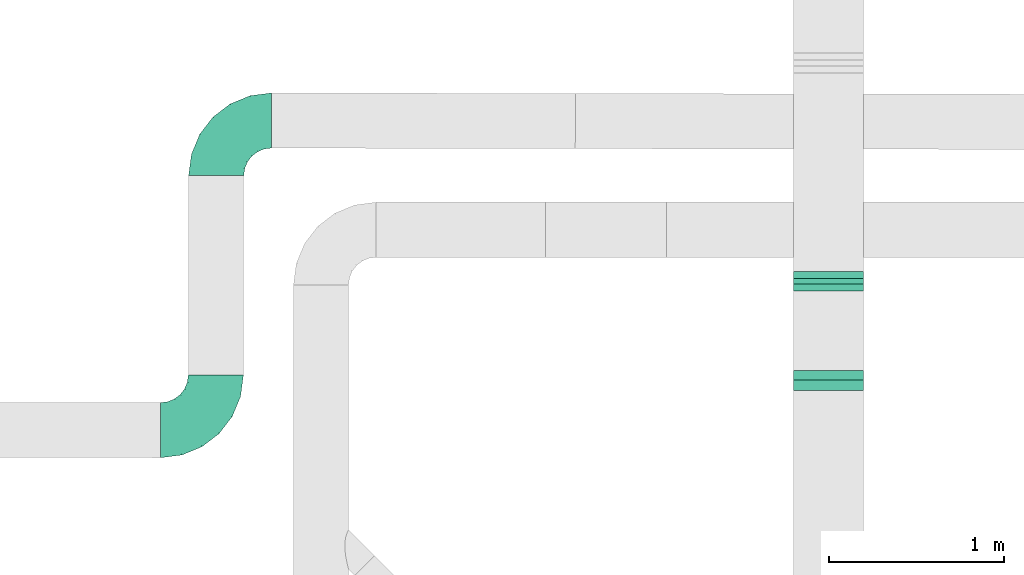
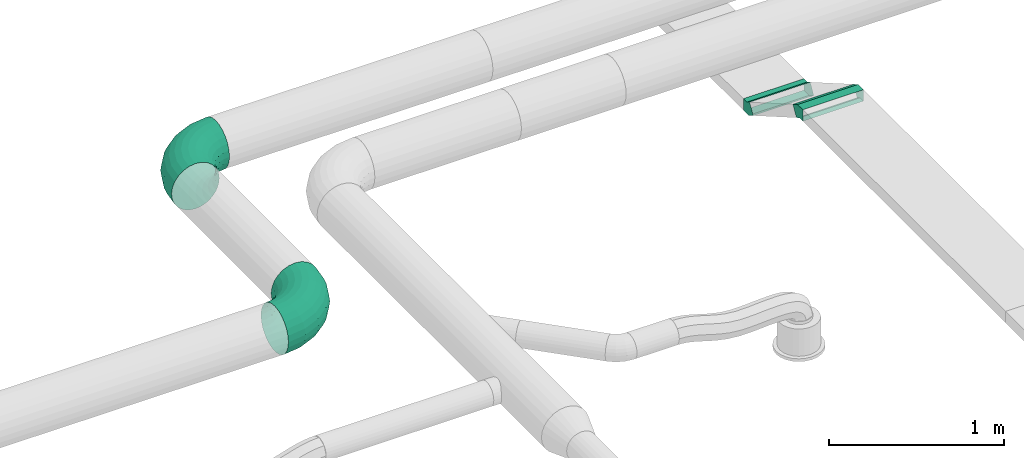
# One storey, part 12 of 119: 2 distribution elements, 2 flow fittings.
"""IFC2X3 building model written with IfcOpenShell, lengths in metres."""

from ifc_helpers import new_model, si_unit, direction, frame, origin, place, context, subcontext, project, spatial, open_shell, surface_model, source, transform, mapped, element, save


model = new_model("IFC2X3")

# Units and contexts
model_context = context("Model", 3, precision=1e-05, world=origin(), true_north=direction((-0.4480736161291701, 0.8939966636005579)))
body_context = subcontext(model_context, "Body", "Model", "MODEL_VIEW")
ifc_project = project(units=[si_unit("LENGTHUNIT", "METRE"), si_unit("AREAUNIT", "SQUARE_METRE"), si_unit("VOLUMEUNIT", "CUBIC_METRE"), si_unit("PLANEANGLEUNIT", "RADIAN"), si_unit("THERMODYNAMICTEMPERATUREUNIT", "KELVIN"), si_unit("MASSUNIT", "GRAM", prefix="KILO"), si_unit("TIMEUNIT", "SECOND")], contexts=[model_context])

# Site, building, storey
site_placement = place(None, origin())
site = spatial("IfcSite", under=ifc_project, at=site_placement, Name="Site 1", CompositionType="ELEMENT")
building_placement = place(site_placement, origin())
building = spatial("IfcBuilding", under=site, at=building_placement, Name="Undefined", CompositionType="ELEMENT")
storey_placement = place(building_placement, frame((0.0, 0.0, 5.4)))
storey = spatial("IfcBuildingStorey", under=building, at=storey_placement, Name="R+1", CompositionType="ELEMENT", Elevation=5.4)

# Flow fitting
shared_shape_1 = source(origin(), body_context, "Body", "SurfaceModel", [
    surface_model("IfcFaceBasedSurfaceModel", [(0.12334725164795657, 0.0, -1.110223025e-15), (0.12264675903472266, 0.04110978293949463, -7.77156117e-16), (0.0007004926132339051, 0.041109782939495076, -7.77156117e-16), (0.0, 0.0, 0.0), (-0.1170905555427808, 0.04519480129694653, -0.031296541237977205), (-0.11914429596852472, 0.004131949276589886, -0.0316560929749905), (-0.22269912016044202, 0.05308645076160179, -0.0917568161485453), (-0.2259661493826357, 0.01211426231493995, -0.09281096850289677), (-0.3089281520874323, 0.06424692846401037, -0.1772605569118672), (-0.313185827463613, 0.023402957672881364, -0.17929702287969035), (-0.3699012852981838, 0.07791566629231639, -0.2819808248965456), (-0.3748594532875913, 0.03722872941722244, -0.285220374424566), (-0.4014633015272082, 0.09316116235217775, -0.39878110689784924), (-0.4067840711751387, 0.05264937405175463, -0.40336252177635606), (0.12059301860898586, 0.08079531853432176, -0.01055203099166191), (0.0027542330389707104, 0.08079531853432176, -0.01055203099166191), (-0.11106929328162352, 0.08474274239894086, -0.04079441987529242), (-0.21312067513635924, 0.09236857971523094, -0.09921822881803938), (-0.2964452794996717, 0.1031531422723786, -0.18184197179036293), (-0.3553646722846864, 0.11636147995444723, -0.2830349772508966), (-0.38586359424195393, 0.131093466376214, -0.39590110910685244), (0.11732598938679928, 0.11635210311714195, -0.03093698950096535), (0.006021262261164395, 0.1163521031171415, -0.030936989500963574), (-0.10149084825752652, 0.12008064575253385, -0.05950246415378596), (-0.19788356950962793, 0.12728363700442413, -0.11468672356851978), (-0.2765878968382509, 0.13747020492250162, -0.19272905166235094), (-0.3322402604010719, 0.14994615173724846, -0.28831099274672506), (-0.36104804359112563, 0.16386126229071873, -0.3949187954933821), (0.11306831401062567, 0.14535700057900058, -0.05976567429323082), (0.010278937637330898, 0.14535700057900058, -0.05976567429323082), (-0.08900797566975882, 0.14880029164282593, -0.08614575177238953), (-0.17802618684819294, 0.15545221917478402, -0.13710814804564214), (-0.25070925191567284, 0.16485946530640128, -0.2091798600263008), (-0.3021039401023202, 0.1763809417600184, -0.29744931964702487), (-0.32870778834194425, 0.189231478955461, -0.395901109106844), (0.10811014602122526, 0.16583337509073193, -0.09507345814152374), (0.015237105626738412, 0.16583337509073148, -0.09507345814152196), (-0.07447136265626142, 0.16894448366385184, -0.1189085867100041), (-0.15490177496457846, 0.17495468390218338, -0.16495451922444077), (-0.22057293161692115, 0.1834543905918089, -0.230073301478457), (-0.26700945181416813, 0.1938643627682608, -0.3098271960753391), (-0.2910467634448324, 0.20547517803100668, -0.3987811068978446), (0.10278937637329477, 0.17638579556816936, -0.13445417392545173), (0.020557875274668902, 0.17638579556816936, -0.1344541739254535), (-0.05887165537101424, 0.17914042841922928, -0.15555823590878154), (-0.13008622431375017, 0.18446197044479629, -0.1963281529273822), (-0.18823267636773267, 0.19198776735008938, -0.2539855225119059), (-0.22934842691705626, 0.20120494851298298, -0.324601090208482), (-0.2506315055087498, 0.21148537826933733, -0.40336252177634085), (0.09746860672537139, 0.17629513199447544, -0.17522409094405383), (0.025878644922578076, 0.17629513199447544, -0.17522409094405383), (-0.043271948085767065, 0.17869328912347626, -0.19359708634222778), (-0.10527067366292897, 0.18332617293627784, -0.22909098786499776), (-0.1558924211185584, 0.1898780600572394, -0.2792869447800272), (-0.1916874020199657, 0.19790245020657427, -0.3407641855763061), (-0.21021624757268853, 0.20685249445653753, -0.40933313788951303), (0.09251043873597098, 0.1655675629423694, -0.2146048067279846), (0.030836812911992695, 0.1655675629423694, -0.21460480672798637), (-0.028735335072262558, 0.1676335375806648, -0.2304328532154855), (-0.0821462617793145, 0.17162469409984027, -0.261010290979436), (-0.1257561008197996, 0.1772690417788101, -0.3042533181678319), (-0.1565929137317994, 0.18418192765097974, -0.35721499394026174), (-0.17255522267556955, 0.1918922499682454, -0.4162860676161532), (0.08825276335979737, 0.14493415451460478, -0.24991259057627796), (0.0350944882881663, 0.14493415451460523, -0.2499125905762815), (-0.01625246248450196, 0.1467148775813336, -0.2635552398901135), (-0.06228887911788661, 0.15015497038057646, -0.28991081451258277), (-0.09987745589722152, 0.15501999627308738, -0.32718322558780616), (-0.1264565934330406, 0.16097841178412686, -0.3728324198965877), (-0.14021496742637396, 0.16762416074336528, -0.4237474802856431), (0.08498573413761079, 0.11580103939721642, -0.27874127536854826), (0.03836151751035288, 0.11580103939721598, -0.2787412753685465), (-0.0066740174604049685, 0.11736288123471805, -0.2907070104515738), (-0.0470517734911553, 0.12038012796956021, -0.3138230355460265), (-0.08002007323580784, 0.12464715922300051, -0.34651403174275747), (-0.10333218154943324, 0.1298731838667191, -0.3865521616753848), (-0.11539941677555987, 0.13570205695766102, -0.43120889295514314), (0.08293199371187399, 0.08015359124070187, -0.2991262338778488), (0.04041525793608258, 0.08015359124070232, -0.2991262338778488), (-0.0006527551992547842, 0.08157783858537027, -0.31003781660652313), (-0.037473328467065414, 0.08432927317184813, -0.3311173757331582), (-0.06753720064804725, 0.08822038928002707, -0.36092837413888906), (-0.08879556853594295, 0.09298601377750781, -0.3974392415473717), (-0.0997997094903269, 0.09830137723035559, -0.438161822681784), (0.08223150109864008, 0.040421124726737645, -0.30967826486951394), (0.0411157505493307, 0.040421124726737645, -0.30967826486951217), (0.001400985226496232, 0.04179844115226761, -0.32023029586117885), (-0.03420629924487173, 0.044459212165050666, -0.34061525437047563), (-0.06327952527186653, 0.04822211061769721, -0.3694439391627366), (-0.08383740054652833, 0.052830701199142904, -0.4047517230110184), (-0.0944789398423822, 0.057970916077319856, -0.44413243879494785), (0.08293199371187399, -0.0006886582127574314, -0.3096782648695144), (0.04041525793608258, -0.0006886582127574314, -0.3096782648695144), (-0.0006527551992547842, 0.0007355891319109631, -0.3205898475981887), (-0.037473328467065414, 0.0034870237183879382, -0.34166940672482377), (-0.06753720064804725, 0.00737813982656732, -0.37148040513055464), (-0.08879556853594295, 0.012143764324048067, -0.4079912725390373), (-0.0997997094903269, 0.017459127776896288, -0.44871385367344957), (0.08498573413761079, -0.040374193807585, -0.29912623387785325), (0.03836151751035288, -0.040374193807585, -0.2991262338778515), (-0.0066740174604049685, -0.03881235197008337, -0.3110919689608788), (-0.0470517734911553, -0.03579510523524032, -0.33420799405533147), (-0.08002007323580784, -0.031528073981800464, -0.36689899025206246), (-0.10333218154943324, -0.02630204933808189, -0.4069371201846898), (-0.11539941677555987, -0.020473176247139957, -0.45159385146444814), (0.08825276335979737, -0.07593097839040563, -0.2787412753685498), (0.0350944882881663, -0.07593097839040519, -0.27874127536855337), (-0.01625246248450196, -0.0741502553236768, -0.29238392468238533), (-0.06228887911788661, -0.07071016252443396, -0.3187394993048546), (-0.09987745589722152, -0.06584513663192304, -0.356011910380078), (-0.1264565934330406, -0.05988672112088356, -0.40166110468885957), (-0.14021496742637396, -0.05324097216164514, -0.4525761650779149), (0.09251043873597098, -0.10493587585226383, -0.2499125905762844), (0.030836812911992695, -0.10493587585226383, -0.24991259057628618), (-0.028735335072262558, -0.10286990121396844, -0.2657406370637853), (-0.0821462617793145, -0.09887874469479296, -0.2963180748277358), (-0.1257561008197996, -0.09323439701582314, -0.3395611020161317), (-0.1565929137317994, -0.0863215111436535, -0.39252277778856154), (-0.17255522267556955, -0.07861118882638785, -0.451593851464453), (0.09746860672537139, -0.12541225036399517, -0.21460480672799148), (0.025878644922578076, -0.12541225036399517, -0.21460480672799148), (-0.043271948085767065, -0.12301409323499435, -0.23297780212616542), (-0.10527067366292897, -0.11838120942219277, -0.2684717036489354), (-0.1558924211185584, -0.11182932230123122, -0.31866766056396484), (-0.1916874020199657, -0.10380493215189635, -0.38014490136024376), (-0.21021624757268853, -0.09485488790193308, -0.4487138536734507), (0.10278937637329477, -0.13596467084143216, -0.1752240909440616), (0.020557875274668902, -0.13596467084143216, -0.17522409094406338), (-0.05887165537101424, -0.1332100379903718, -0.19632815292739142), (-0.13008622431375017, -0.12788849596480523, -0.23709806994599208), (-0.18823267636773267, -0.12036269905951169, -0.2947554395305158), (-0.22934842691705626, -0.11114551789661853, -0.36537100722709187), (-0.2506315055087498, -0.10086508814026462, -0.44413243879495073), (0.10811014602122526, -0.13587400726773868, -0.13445417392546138), (0.015237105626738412, -0.13587400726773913, -0.1344541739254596), (-0.07447136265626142, -0.13276289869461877, -0.15828930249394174), (-0.15490177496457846, -0.12675269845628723, -0.2043352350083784), (-0.22057293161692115, -0.11825299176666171, -0.26945401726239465), (-0.26700945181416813, -0.10784301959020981, -0.34920791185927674), (-0.2910467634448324, -0.09623220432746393, -0.4381618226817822), (0.11306831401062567, -0.12514643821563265, -0.09507345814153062), (0.010278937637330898, -0.12514643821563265, -0.09507345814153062), (-0.08900797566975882, -0.1217031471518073, -0.12145353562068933), (-0.17802618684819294, -0.11505121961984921, -0.17241593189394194), (-0.25070925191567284, -0.10564397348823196, -0.2444876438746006), (-0.3021039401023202, -0.09412249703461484, -0.33275710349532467), (-0.32870778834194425, -0.08127195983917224, -0.4312088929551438), (0.11732598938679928, -0.10451302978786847, -0.05976567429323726), (0.006021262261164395, -0.10451302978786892, -0.05976567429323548), (-0.10149084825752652, -0.10078448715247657, -0.08833114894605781), (-0.19788356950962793, -0.09358149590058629, -0.14351540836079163), (-0.2765878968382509, -0.0833949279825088, -0.2215577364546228), (-0.3322402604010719, -0.07091898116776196, -0.3171396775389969), (-0.36104804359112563, -0.057003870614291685, -0.42374748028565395), (0.12059301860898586, -0.07537991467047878, -0.030936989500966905), (0.0027542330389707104, -0.07537991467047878, -0.030936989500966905), (-0.11106929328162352, -0.07143249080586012, -0.06117937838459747), (-0.21312067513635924, -0.06380665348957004, -0.11960318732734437), (-0.2964452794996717, -0.05302209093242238, -0.20222693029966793), (-0.3553646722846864, -0.039813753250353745, -0.3034199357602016), (-0.38586359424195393, -0.025081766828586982, -0.41628606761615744), (0.12264675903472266, -0.039732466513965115, -0.010552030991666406), (0.0007004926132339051, -0.039732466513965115, -0.010552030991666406), (-0.1170905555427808, -0.03564744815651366, -0.04184857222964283), (-0.22269912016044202, -0.027755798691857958, -0.10230884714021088), (-0.3089281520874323, -0.016595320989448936, -0.18781258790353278), (-0.3699012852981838, -0.002926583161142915, -0.29253285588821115), (-0.4014633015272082, 0.012318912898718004, -0.4093331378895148)], [open_shell([[[0, 1, 2, 3]], [[3, 2, 4, 5]], [[5, 4, 6, 7]], [[7, 6, 8, 9]], [[9, 8, 10, 11]], [[11, 10, 12, 13]], [[1, 14, 15, 2]], [[2, 15, 16, 4]], [[4, 16, 17, 6]], [[6, 17, 18, 8]], [[8, 18, 19, 10]], [[10, 19, 20, 12]], [[14, 21, 22, 15]], [[15, 22, 23, 16]], [[16, 23, 24, 17]], [[17, 24, 25, 18]], [[18, 25, 26, 19]], [[19, 26, 27, 20]], [[21, 28, 29, 22]], [[22, 29, 30, 23]], [[23, 30, 31, 24]], [[24, 31, 32, 25]], [[25, 32, 33, 26]], [[26, 33, 34, 27]], [[28, 35, 36, 29]], [[29, 36, 37, 30]], [[30, 37, 38, 31]], [[31, 38, 39, 32]], [[32, 39, 40, 33]], [[33, 40, 41, 34]], [[35, 42, 43, 36]], [[36, 43, 44, 37]], [[37, 44, 45, 38]], [[38, 45, 46, 39]], [[39, 46, 47, 40]], [[40, 47, 48, 41]], [[42, 49, 50, 43]], [[43, 50, 51, 44]], [[44, 51, 52, 45]], [[45, 52, 53, 46]], [[46, 53, 54, 47]], [[47, 54, 55, 48]], [[49, 56, 57, 50]], [[50, 57, 58, 51]], [[51, 58, 59, 52]], [[52, 59, 60, 53]], [[53, 60, 61, 54]], [[54, 61, 62, 55]], [[56, 63, 64, 57]], [[57, 64, 65, 58]], [[58, 65, 66, 59]], [[59, 66, 67, 60]], [[60, 67, 68, 61]], [[61, 68, 69, 62]], [[63, 70, 71, 64]], [[64, 71, 72, 65]], [[65, 72, 73, 66]], [[66, 73, 74, 67]], [[67, 74, 75, 68]], [[68, 75, 76, 69]], [[70, 77, 78, 71]], [[71, 78, 79, 72]], [[72, 79, 80, 73]], [[73, 80, 81, 74]], [[74, 81, 82, 75]], [[75, 82, 83, 76]], [[77, 84, 85, 78]], [[78, 85, 86, 79]], [[79, 86, 87, 80]], [[80, 87, 88, 81]], [[81, 88, 89, 82]], [[82, 89, 90, 83]], [[84, 91, 92, 85]], [[85, 92, 93, 86]], [[86, 93, 94, 87]], [[87, 94, 95, 88]], [[88, 95, 96, 89]], [[89, 96, 97, 90]], [[91, 98, 99, 92]], [[92, 99, 100, 93]], [[93, 100, 101, 94]], [[94, 101, 102, 95]], [[95, 102, 103, 96]], [[96, 103, 104, 97]], [[98, 105, 106, 99]], [[99, 106, 107, 100]], [[100, 107, 108, 101]], [[101, 108, 109, 102]], [[102, 109, 110, 103]], [[103, 110, 111, 104]], [[105, 112, 113, 106]], [[106, 113, 114, 107]], [[107, 114, 115, 108]], [[108, 115, 116, 109]], [[109, 116, 117, 110]], [[110, 117, 118, 111]], [[112, 119, 120, 113]], [[113, 120, 121, 114]], [[114, 121, 122, 115]], [[115, 122, 123, 116]], [[116, 123, 124, 117]], [[117, 124, 125, 118]], [[119, 126, 127, 120]], [[120, 127, 128, 121]], [[121, 128, 129, 122]], [[122, 129, 130, 123]], [[123, 130, 131, 124]], [[124, 131, 132, 125]], [[126, 133, 134, 127]], [[127, 134, 135, 128]], [[128, 135, 136, 129]], [[129, 136, 137, 130]], [[130, 137, 138, 131]], [[131, 138, 139, 132]], [[133, 140, 141, 134]], [[134, 141, 142, 135]], [[135, 142, 143, 136]], [[136, 143, 144, 137]], [[137, 144, 145, 138]], [[138, 145, 146, 139]], [[140, 147, 148, 141]], [[141, 148, 149, 142]], [[142, 149, 150, 143]], [[143, 150, 151, 144]], [[144, 151, 152, 145]], [[145, 152, 153, 146]], [[147, 154, 155, 148]], [[148, 155, 156, 149]], [[149, 156, 157, 150]], [[150, 157, 158, 151]], [[151, 158, 159, 152]], [[152, 159, 160, 153]], [[154, 161, 162, 155]], [[155, 162, 163, 156]], [[156, 163, 164, 157]], [[157, 164, 165, 158]], [[158, 165, 166, 159]], [[159, 166, 167, 160]], [[161, 0, 3, 162]], [[162, 3, 5, 163]], [[163, 5, 7, 164]], [[164, 7, 9, 165]], [[165, 9, 11, 166]], [[166, 11, 13, 167]]])]),
])
flow_fitting_1_placement = place(storey_placement, origin())
element("IfcFlowFitting", 1, at=flow_fitting_1_placement, inside=storey, Name="Coude", ObjectType="Coude", context=body_context, shape_type="MappedRepresentation", body=[
    mapped(shared_shape_1, transform((5.721312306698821, 19.699217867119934, 2.75), x_axis=(-0.13225639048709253, -0.9912155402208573, 0.0), y_axis=(0.12829135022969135, -0.017117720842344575, 0.991588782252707), z_axis=(-0.982878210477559, 0.13114395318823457, 0.12942830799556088))),
])

# Distribution elements
shared_shape_2 = source(origin(), body_context, "Body", "SurfaceModel", [
    surface_model("IfcFaceBasedSurfaceModel", [(0.0, 0.03928203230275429, 0.0), (0.0, 0.0, 0.0), (0.3999999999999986, 0.0, 1.776356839e-15), (0.3999999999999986, 0.03928203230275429, 1.776356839e-15), (0.0, -0.034019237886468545, 0.019641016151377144), (0.3999999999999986, -0.034019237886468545, 0.019641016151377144), (0.0, -0.07401923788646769, -0.04964101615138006), (0.0, -0.02143593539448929, -0.0799999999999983), (0.3999999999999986, -0.02143593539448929, -0.0799999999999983), (0.3999999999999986, -0.07401923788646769, -0.04964101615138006), (0.0, 0.03928203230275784, -0.0799999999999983), (0.3999999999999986, 0.03928203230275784, -0.07999999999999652)], [open_shell([[[0, 1, 2, 3]], [[1, 4, 5, 2]], [[6, 7, 8, 9]], [[7, 10, 11, 8]], [[11, 3, 2]], [[11, 2, 5]], [[11, 5, 9]], [[11, 9, 8]], [[1, 0, 10]], [[4, 1, 10]], [[6, 4, 10]], [[7, 6, 10]]])]),
])
distribution_element_1_placement = place(storey_placement, origin())
element("IfcDistributionElement", 2, at=distribution_element_1_placement, inside=storey, Name="Connecteur articulé vertical Descendant", ObjectType="Connecteur articulé vertical Descendant", context=body_context, shape_type="MappedRepresentation", body=[
    mapped(shared_shape_2, transform((9.56099805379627, 18.388162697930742, 2.7925), x_axis=(-1.0, 0.0, 0.0), y_axis=(2.53885469e-16, 0.8660254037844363, -0.5000000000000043), z_axis=(9.61481343e-16, -0.5000000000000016, -0.8660254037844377))),
])
distribution_element_2_placement = place(storey_placement, origin())
element("IfcDistributionElement", 3, at=distribution_element_2_placement, inside=storey, Name="Connecteur articulé vertical Descendant", ObjectType="Connecteur articulé vertical Descendant", context=body_context, shape_type="MappedRepresentation", body=[
    mapped(shared_shape_2, transform((9.56099805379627, 18.98983565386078, 2.5375000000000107), x_axis=(-1.0, 0.0, 0.0), y_axis=(-5.55111512e-16, -0.8660254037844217, 0.5000000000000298), z_axis=(-9.61481343e-16, 0.5000000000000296, 0.8660254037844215))),
])

# Flow fitting
shared_shape_3 = source(origin(), body_context, "Body", "SurfaceModel", [
    surface_model("IfcFaceBasedSurfaceModel", [(0.12334725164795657, 0.0, -1.110223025e-15), (0.12264675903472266, 0.04110978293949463, -7.77156117e-16), (0.0007004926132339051, 0.041109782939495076, -7.77156117e-16), (0.0, 0.0, 0.0), (-0.1170905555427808, 0.04519480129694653, -0.031296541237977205), (-0.11914429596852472, 0.004131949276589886, -0.0316560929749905), (-0.22269912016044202, 0.05308645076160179, -0.0917568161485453), (-0.2259661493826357, 0.01211426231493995, -0.09281096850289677), (-0.3089281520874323, 0.06424692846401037, -0.1772605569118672), (-0.313185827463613, 0.023402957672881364, -0.17929702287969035), (-0.3699012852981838, 0.07791566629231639, -0.2819808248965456), (-0.3748594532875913, 0.03722872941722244, -0.285220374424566), (-0.4014633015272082, 0.09316116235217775, -0.39878110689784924), (-0.4067840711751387, 0.05264937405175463, -0.40336252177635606), (0.12059301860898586, 0.08079531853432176, -0.01055203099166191), (0.0027542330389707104, 0.08079531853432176, -0.01055203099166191), (-0.11106929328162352, 0.08474274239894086, -0.04079441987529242), (-0.21312067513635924, 0.09236857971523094, -0.09921822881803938), (-0.2964452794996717, 0.1031531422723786, -0.18184197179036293), (-0.3553646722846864, 0.11636147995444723, -0.2830349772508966), (-0.38586359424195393, 0.131093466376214, -0.39590110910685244), (0.11732598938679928, 0.11635210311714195, -0.03093698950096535), (0.006021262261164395, 0.1163521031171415, -0.030936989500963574), (-0.10149084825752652, 0.12008064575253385, -0.05950246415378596), (-0.19788356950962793, 0.12728363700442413, -0.11468672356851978), (-0.2765878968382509, 0.13747020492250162, -0.19272905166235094), (-0.3322402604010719, 0.14994615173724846, -0.28831099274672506), (-0.36104804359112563, 0.16386126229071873, -0.3949187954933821), (0.11306831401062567, 0.14535700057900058, -0.05976567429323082), (0.010278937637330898, 0.14535700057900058, -0.05976567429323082), (-0.08900797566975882, 0.14880029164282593, -0.08614575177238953), (-0.17802618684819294, 0.15545221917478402, -0.13710814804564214), (-0.25070925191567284, 0.16485946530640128, -0.2091798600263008), (-0.3021039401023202, 0.1763809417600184, -0.29744931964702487), (-0.32870778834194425, 0.189231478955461, -0.395901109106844), (0.10811014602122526, 0.16583337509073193, -0.09507345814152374), (0.015237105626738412, 0.16583337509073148, -0.09507345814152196), (-0.07447136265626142, 0.16894448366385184, -0.1189085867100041), (-0.15490177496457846, 0.17495468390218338, -0.16495451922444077), (-0.22057293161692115, 0.1834543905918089, -0.230073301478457), (-0.26700945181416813, 0.1938643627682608, -0.3098271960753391), (-0.2910467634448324, 0.20547517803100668, -0.3987811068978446), (0.10278937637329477, 0.17638579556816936, -0.13445417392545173), (0.020557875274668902, 0.17638579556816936, -0.1344541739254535), (-0.05887165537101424, 0.17914042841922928, -0.15555823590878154), (-0.13008622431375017, 0.18446197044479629, -0.1963281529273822), (-0.18823267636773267, 0.19198776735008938, -0.2539855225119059), (-0.22934842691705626, 0.20120494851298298, -0.324601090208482), (-0.2506315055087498, 0.21148537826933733, -0.40336252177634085), (0.09746860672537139, 0.17629513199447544, -0.17522409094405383), (0.025878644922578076, 0.17629513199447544, -0.17522409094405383), (-0.043271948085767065, 0.17869328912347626, -0.19359708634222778), (-0.10527067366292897, 0.18332617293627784, -0.22909098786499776), (-0.1558924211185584, 0.1898780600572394, -0.2792869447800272), (-0.1916874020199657, 0.19790245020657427, -0.3407641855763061), (-0.21021624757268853, 0.20685249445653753, -0.40933313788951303), (0.09251043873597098, 0.1655675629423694, -0.2146048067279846), (0.030836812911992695, 0.1655675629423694, -0.21460480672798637), (-0.028735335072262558, 0.1676335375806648, -0.2304328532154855), (-0.0821462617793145, 0.17162469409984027, -0.261010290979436), (-0.1257561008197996, 0.1772690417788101, -0.3042533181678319), (-0.1565929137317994, 0.18418192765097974, -0.35721499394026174), (-0.17255522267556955, 0.1918922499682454, -0.4162860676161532), (0.08825276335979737, 0.14493415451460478, -0.24991259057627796), (0.0350944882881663, 0.14493415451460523, -0.2499125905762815), (-0.01625246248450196, 0.1467148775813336, -0.2635552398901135), (-0.06228887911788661, 0.15015497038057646, -0.28991081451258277), (-0.09987745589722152, 0.15501999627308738, -0.32718322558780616), (-0.1264565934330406, 0.16097841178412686, -0.3728324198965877), (-0.14021496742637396, 0.16762416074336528, -0.4237474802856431), (0.08498573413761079, 0.11580103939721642, -0.27874127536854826), (0.03836151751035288, 0.11580103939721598, -0.2787412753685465), (-0.0066740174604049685, 0.11736288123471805, -0.2907070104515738), (-0.0470517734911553, 0.12038012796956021, -0.3138230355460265), (-0.08002007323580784, 0.12464715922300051, -0.34651403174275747), (-0.10333218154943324, 0.1298731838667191, -0.3865521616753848), (-0.11539941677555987, 0.13570205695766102, -0.43120889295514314), (0.08293199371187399, 0.08015359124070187, -0.2991262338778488), (0.04041525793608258, 0.08015359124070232, -0.2991262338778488), (-0.0006527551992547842, 0.08157783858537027, -0.31003781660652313), (-0.037473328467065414, 0.08432927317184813, -0.3311173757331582), (-0.06753720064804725, 0.08822038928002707, -0.36092837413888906), (-0.08879556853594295, 0.09298601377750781, -0.3974392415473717), (-0.0997997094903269, 0.09830137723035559, -0.438161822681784), (0.08223150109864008, 0.040421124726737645, -0.30967826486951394), (0.0411157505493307, 0.040421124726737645, -0.30967826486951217), (0.001400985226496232, 0.04179844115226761, -0.32023029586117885), (-0.03420629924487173, 0.044459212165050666, -0.34061525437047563), (-0.06327952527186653, 0.04822211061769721, -0.3694439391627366), (-0.08383740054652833, 0.052830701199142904, -0.4047517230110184), (-0.0944789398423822, 0.057970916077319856, -0.44413243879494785), (0.08293199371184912, -0.0006886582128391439, -0.3096782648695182), (0.040415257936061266, -0.0006886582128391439, -0.3096782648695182), (-0.0006527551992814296, 0.0007355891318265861, -0.32058984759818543), (-0.037473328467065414, 0.0034870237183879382, -0.34166940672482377), (-0.06753720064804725, 0.00737813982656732, -0.37148040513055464), (-0.08879556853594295, 0.012143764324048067, -0.4079912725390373), (-0.0997997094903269, 0.017459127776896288, -0.44871385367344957), (0.08498573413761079, -0.040374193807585, -0.29912623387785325), (0.03836151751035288, -0.040374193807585, -0.2991262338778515), (-0.0066740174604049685, -0.03881235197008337, -0.3110919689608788), (-0.0470517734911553, -0.03579510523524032, -0.33420799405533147), (-0.08002007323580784, -0.031528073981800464, -0.36689899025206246), (-0.10333218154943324, -0.02630204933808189, -0.4069371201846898), (-0.11539941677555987, -0.020473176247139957, -0.45159385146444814), (0.08825276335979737, -0.07593097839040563, -0.2787412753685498), (0.0350944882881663, -0.07593097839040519, -0.27874127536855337), (-0.01625246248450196, -0.0741502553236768, -0.29238392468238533), (-0.06228887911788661, -0.07071016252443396, -0.3187394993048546), (-0.09987745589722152, -0.06584513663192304, -0.356011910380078), (-0.1264565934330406, -0.05988672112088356, -0.40166110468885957), (-0.14021496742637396, -0.05324097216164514, -0.4525761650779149), (0.09251043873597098, -0.10493587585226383, -0.2499125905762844), (0.030836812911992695, -0.10493587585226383, -0.24991259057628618), (-0.028735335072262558, -0.10286990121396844, -0.2657406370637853), (-0.0821462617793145, -0.09887874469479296, -0.2963180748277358), (-0.1257561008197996, -0.09323439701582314, -0.3395611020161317), (-0.1565929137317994, -0.0863215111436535, -0.39252277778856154), (-0.17255522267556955, -0.07861118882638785, -0.451593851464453), (0.09746860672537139, -0.12541225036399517, -0.21460480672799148), (0.025878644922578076, -0.12541225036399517, -0.21460480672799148), (-0.043271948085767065, -0.12301409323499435, -0.23297780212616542), (-0.10527067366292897, -0.11838120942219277, -0.2684717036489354), (-0.1558924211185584, -0.11182932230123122, -0.31866766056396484), (-0.1916874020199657, -0.10380493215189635, -0.38014490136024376), (-0.21021624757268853, -0.09485488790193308, -0.4487138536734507), (0.10278937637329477, -0.13596467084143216, -0.1752240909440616), (0.020557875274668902, -0.13596467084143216, -0.17522409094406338), (-0.05887165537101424, -0.1332100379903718, -0.19632815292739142), (-0.13008622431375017, -0.12788849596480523, -0.23709806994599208), (-0.18823267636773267, -0.12036269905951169, -0.2947554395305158), (-0.22934842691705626, -0.11114551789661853, -0.36537100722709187), (-0.2506315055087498, -0.10086508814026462, -0.44413243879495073), (0.10811014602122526, -0.13587400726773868, -0.13445417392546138), (0.015237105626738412, -0.13587400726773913, -0.1344541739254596), (-0.07447136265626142, -0.13276289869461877, -0.15828930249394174), (-0.15490177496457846, -0.12675269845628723, -0.2043352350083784), (-0.22057293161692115, -0.11825299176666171, -0.26945401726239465), (-0.26700945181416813, -0.10784301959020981, -0.34920791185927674), (-0.2910467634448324, -0.09623220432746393, -0.4381618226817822), (0.11306831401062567, -0.12514643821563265, -0.09507345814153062), (0.010278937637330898, -0.12514643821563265, -0.09507345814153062), (-0.08900797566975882, -0.1217031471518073, -0.12145353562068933), (-0.17802618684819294, -0.11505121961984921, -0.17241593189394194), (-0.25070925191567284, -0.10564397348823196, -0.2444876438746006), (-0.3021039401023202, -0.09412249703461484, -0.33275710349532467), (-0.32870778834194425, -0.08127195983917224, -0.4312088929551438), (0.11732598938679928, -0.10451302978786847, -0.05976567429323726), (0.006021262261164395, -0.10451302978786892, -0.05976567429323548), (-0.10149084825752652, -0.10078448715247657, -0.08833114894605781), (-0.19788356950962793, -0.09358149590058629, -0.14351540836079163), (-0.2765878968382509, -0.0833949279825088, -0.2215577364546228), (-0.3322402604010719, -0.07091898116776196, -0.3171396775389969), (-0.36104804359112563, -0.057003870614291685, -0.42374748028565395), (0.12059301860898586, -0.07537991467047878, -0.030936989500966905), (0.0027542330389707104, -0.07537991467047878, -0.030936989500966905), (-0.11106929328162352, -0.07143249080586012, -0.06117937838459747), (-0.21312067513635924, -0.06380665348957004, -0.11960318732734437), (-0.2964452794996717, -0.05302209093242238, -0.20222693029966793), (-0.3553646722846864, -0.039813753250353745, -0.3034199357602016), (-0.38586359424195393, -0.025081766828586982, -0.41628606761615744), (0.12264675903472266, -0.039732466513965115, -0.010552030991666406), (0.0007004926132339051, -0.039732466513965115, -0.010552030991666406), (-0.1170905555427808, -0.03564744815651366, -0.04184857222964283), (-0.22269912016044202, -0.027755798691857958, -0.10230884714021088), (-0.3089281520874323, -0.016595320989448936, -0.18781258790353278), (-0.3699012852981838, -0.002926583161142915, -0.29253285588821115), (-0.4014633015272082, 0.012318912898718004, -0.4093331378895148)], [open_shell([[[0, 1, 2, 3]], [[3, 2, 4, 5]], [[5, 4, 6, 7]], [[7, 6, 8, 9]], [[9, 8, 10, 11]], [[11, 10, 12, 13]], [[1, 14, 15, 2]], [[2, 15, 16, 4]], [[4, 16, 17, 6]], [[6, 17, 18, 8]], [[8, 18, 19, 10]], [[10, 19, 20, 12]], [[14, 21, 22, 15]], [[15, 22, 23, 16]], [[16, 23, 24, 17]], [[17, 24, 25, 18]], [[18, 25, 26, 19]], [[19, 26, 27, 20]], [[21, 28, 29, 22]], [[22, 29, 30, 23]], [[23, 30, 31, 24]], [[24, 31, 32, 25]], [[25, 32, 33, 26]], [[26, 33, 34, 27]], [[28, 35, 36, 29]], [[29, 36, 37, 30]], [[30, 37, 38, 31]], [[31, 38, 39, 32]], [[32, 39, 40, 33]], [[33, 40, 41, 34]], [[35, 42, 43, 36]], [[36, 43, 44, 37]], [[37, 44, 45, 38]], [[38, 45, 46, 39]], [[39, 46, 47, 40]], [[40, 47, 48, 41]], [[42, 49, 50, 43]], [[43, 50, 51, 44]], [[44, 51, 52, 45]], [[45, 52, 53, 46]], [[46, 53, 54, 47]], [[47, 54, 55, 48]], [[49, 56, 57, 50]], [[50, 57, 58, 51]], [[51, 58, 59, 52]], [[52, 59, 60, 53]], [[53, 60, 61, 54]], [[54, 61, 62, 55]], [[56, 63, 64, 57]], [[57, 64, 65, 58]], [[58, 65, 66, 59]], [[59, 66, 67, 60]], [[60, 67, 68, 61]], [[61, 68, 69, 62]], [[63, 70, 71, 64]], [[64, 71, 72, 65]], [[65, 72, 73, 66]], [[66, 73, 74, 67]], [[67, 74, 75, 68]], [[68, 75, 76, 69]], [[70, 77, 78, 71]], [[71, 78, 79, 72]], [[72, 79, 80, 73]], [[73, 80, 81, 74]], [[74, 81, 82, 75]], [[75, 82, 83, 76]], [[77, 84, 85, 78]], [[78, 85, 86, 79]], [[79, 86, 87, 80]], [[80, 87, 88, 81]], [[81, 88, 89, 82]], [[82, 89, 90, 83]], [[84, 91, 92, 85]], [[85, 92, 93, 86]], [[86, 93, 94, 87]], [[87, 94, 95, 88]], [[88, 95, 96, 89]], [[89, 96, 97, 90]], [[91, 98, 99, 92]], [[92, 99, 100, 93]], [[93, 100, 101, 94]], [[94, 101, 102, 95]], [[95, 102, 103, 96]], [[96, 103, 104, 97]], [[98, 105, 106, 99]], [[99, 106, 107, 100]], [[100, 107, 108, 101]], [[101, 108, 109, 102]], [[102, 109, 110, 103]], [[103, 110, 111, 104]], [[105, 112, 113, 106]], [[106, 113, 114, 107]], [[107, 114, 115, 108]], [[108, 115, 116, 109]], [[109, 116, 117, 110]], [[110, 117, 118, 111]], [[112, 119, 120, 113]], [[113, 120, 121, 114]], [[114, 121, 122, 115]], [[115, 122, 123, 116]], [[116, 123, 124, 117]], [[117, 124, 125, 118]], [[119, 126, 127, 120]], [[120, 127, 128, 121]], [[121, 128, 129, 122]], [[122, 129, 130, 123]], [[123, 130, 131, 124]], [[124, 131, 132, 125]], [[126, 133, 134, 127]], [[127, 134, 135, 128]], [[128, 135, 136, 129]], [[129, 136, 137, 130]], [[130, 137, 138, 131]], [[131, 138, 139, 132]], [[133, 140, 141, 134]], [[134, 141, 142, 135]], [[135, 142, 143, 136]], [[136, 143, 144, 137]], [[137, 144, 145, 138]], [[138, 145, 146, 139]], [[140, 147, 148, 141]], [[141, 148, 149, 142]], [[142, 149, 150, 143]], [[143, 150, 151, 144]], [[144, 151, 152, 145]], [[145, 152, 153, 146]], [[147, 154, 155, 148]], [[148, 155, 156, 149]], [[149, 156, 157, 150]], [[150, 157, 158, 151]], [[151, 158, 159, 152]], [[152, 159, 160, 153]], [[154, 161, 162, 155]], [[155, 162, 163, 156]], [[156, 163, 164, 157]], [[157, 164, 165, 158]], [[158, 165, 166, 159]], [[159, 166, 167, 160]], [[161, 0, 3, 162]], [[162, 3, 5, 163]], [[163, 5, 7, 164]], [[164, 7, 9, 165]], [[165, 9, 11, 166]], [[166, 11, 13, 167]]])]),
])
flow_fitting_2_placement = place(storey_placement, origin())
element("IfcFlowFitting", 4, at=flow_fitting_2_placement, inside=storey, Name="Coude", ObjectType="Coude", context=body_context, shape_type="MappedRepresentation", body=[
    mapped(shared_shape_3, transform((5.667003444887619, 17.979925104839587, 2.75), x_axis=(-0.9916711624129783, -0.12879559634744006, 0.0), y_axis=(-0.016669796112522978, 0.12835032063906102, -0.9915887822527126), z_axis=(0.12771226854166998, -0.9833300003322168, -0.12942830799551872))),
])

save(model, "model.ifc")
